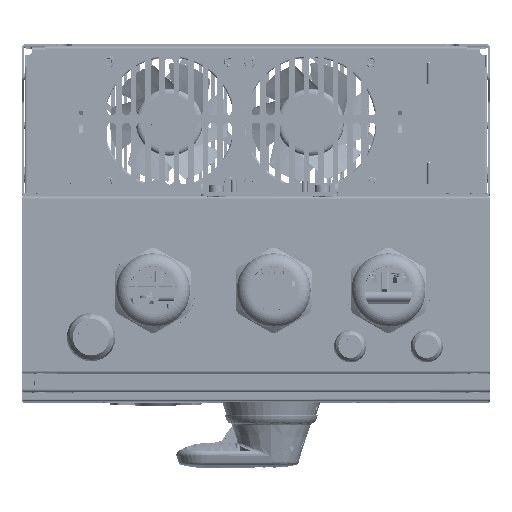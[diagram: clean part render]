
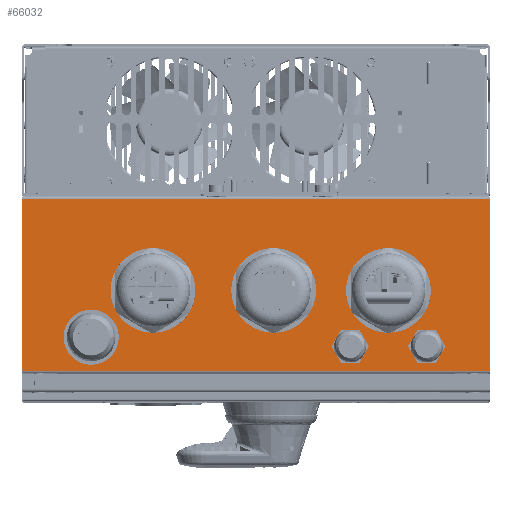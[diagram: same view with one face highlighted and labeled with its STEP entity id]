
A CAD part, top view. The second image highlights one B-rep face of the part: STEP entity #66032.
In plain terms, the highlighted planar face has unit normal (0, 0, 1) as drawn and (-1, 0, 0) by its records, which use the part's own axes.
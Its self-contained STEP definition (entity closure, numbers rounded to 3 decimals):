
#61065=DIRECTION('',(0.,0.,1.));
#61066=VECTOR('',#61065,318.);
#61067=CARTESIAN_POINT('',(-382.3,1.7,-159.));
#61068=LINE('',#61067,#61066);
#61516=DIRECTION('',(0.,0.,1.));
#61517=VECTOR('',#61516,318.);
#61518=CARTESIAN_POINT('',(-382.3,118.7,-159.));
#61519=LINE('',#61518,#61517);
#61525=DIRECTION('',(0.,1.,0.));
#61526=VECTOR('',#61525,117.);
#61527=CARTESIAN_POINT('',(-382.3,1.7,-159.));
#61528=LINE('',#61527,#61526);
#61529=DIRECTION('',(0.,-1.,0.));
#61530=VECTOR('',#61529,117.);
#61531=CARTESIAN_POINT('',(-382.3,118.7,159.));
#61532=LINE('',#61531,#61530);
#61533=CARTESIAN_POINT('',(-382.3,63.982,70.));
#61534=DIRECTION('',(-1.,0.,0.));
#61535=DIRECTION('',(0.,0.,-1.));
#61536=AXIS2_PLACEMENT_3D('',#61533,#61534,#61535);
#61538=CARTESIAN_POINT('',(-382.3,63.982,70.));
#61539=DIRECTION('',(-1.,0.,0.));
#61540=DIRECTION('',(0.,0.,1.));
#61541=AXIS2_PLACEMENT_3D('',#61538,#61539,#61540);
#61543=CARTESIAN_POINT('',(-382.3,102.,-116.));
#61544=DIRECTION('',(-1.,0.,0.));
#61545=DIRECTION('',(0.,0.,-1.));
#61546=AXIS2_PLACEMENT_3D('',#61543,#61544,#61545);
#61548=CARTESIAN_POINT('',(-382.3,102.,-116.));
#61549=DIRECTION('',(-1.,0.,0.));
#61550=DIRECTION('',(0.,0.,1.));
#61551=AXIS2_PLACEMENT_3D('',#61548,#61549,#61550);
#61553=CARTESIAN_POINT('',(-382.3,64.,-12.));
#61554=DIRECTION('',(-1.,0.,0.));
#61555=DIRECTION('',(0.,0.,-1.));
#61556=AXIS2_PLACEMENT_3D('',#61553,#61554,#61555);
#61558=CARTESIAN_POINT('',(-382.3,64.,-12.));
#61559=DIRECTION('',(-1.,0.,0.));
#61560=DIRECTION('',(0.,0.,1.));
#61561=AXIS2_PLACEMENT_3D('',#61558,#61559,#61560);
#61563=CARTESIAN_POINT('',(-382.3,64.,-90.));
#61564=DIRECTION('',(-1.,0.,0.));
#61565=DIRECTION('',(0.,0.,-1.));
#61566=AXIS2_PLACEMENT_3D('',#61563,#61564,#61565);
#61568=CARTESIAN_POINT('',(-382.3,64.,-90.));
#61569=DIRECTION('',(-1.,0.,0.));
#61570=DIRECTION('',(0.,0.,1.));
#61571=AXIS2_PLACEMENT_3D('',#61568,#61569,#61570);
#61573=CARTESIAN_POINT('',(-382.3,102.,-64.));
#61574=DIRECTION('',(-1.,0.,0.));
#61575=DIRECTION('',(0.,0.,-1.));
#61576=AXIS2_PLACEMENT_3D('',#61573,#61574,#61575);
#61578=CARTESIAN_POINT('',(-382.3,102.,-64.));
#61579=DIRECTION('',(-1.,0.,0.));
#61580=DIRECTION('',(0.,0.,1.));
#61581=AXIS2_PLACEMENT_3D('',#61578,#61579,#61580);
#61583=CARTESIAN_POINT('',(-382.3,95.8,112.));
#61584=DIRECTION('',(-1.,0.,0.));
#61585=DIRECTION('',(0.,0.,-1.));
#61586=AXIS2_PLACEMENT_3D('',#61583,#61584,#61585);
#61588=CARTESIAN_POINT('',(-382.3,95.8,112.));
#61589=DIRECTION('',(-1.,0.,0.));
#61590=DIRECTION('',(0.,0.,1.));
#61591=AXIS2_PLACEMENT_3D('',#61588,#61589,#61590);
#63449=CARTESIAN_POINT('',(-382.3,118.7,159.));
#63450=VERTEX_POINT('',#63449);
#63451=CARTESIAN_POINT('',(-382.3,118.7,-159.));
#63452=VERTEX_POINT('',#63451);
#63513=CARTESIAN_POINT('',(-382.3,1.7,159.));
#63515=VERTEX_POINT('',#63513);
#63521=CARTESIAN_POINT('',(-382.3,1.7,-159.));
#63523=VERTEX_POINT('',#63521);
#63837=CARTESIAN_POINT('',(-382.3,63.982,49.75));
#63838=CARTESIAN_POINT('',(-382.3,63.982,90.25));
#63839=VERTEX_POINT('',#63837);
#63840=VERTEX_POINT('',#63838);
#63841=CARTESIAN_POINT('',(-382.3,102.,-124.25));
#63842=CARTESIAN_POINT('',(-382.3,102.,-107.75));
#63843=VERTEX_POINT('',#63841);
#63844=VERTEX_POINT('',#63842);
#63845=CARTESIAN_POINT('',(-382.3,64.,-32.25));
#63846=CARTESIAN_POINT('',(-382.3,64.,8.25));
#63847=VERTEX_POINT('',#63845);
#63848=VERTEX_POINT('',#63846);
#63849=CARTESIAN_POINT('',(-382.3,64.,-110.25));
#63850=CARTESIAN_POINT('',(-382.3,64.,-69.75));
#63851=VERTEX_POINT('',#63849);
#63852=VERTEX_POINT('',#63850);
#63853=CARTESIAN_POINT('',(-382.3,102.,-72.25));
#63854=CARTESIAN_POINT('',(-382.3,102.,-55.75));
#63855=VERTEX_POINT('',#63853);
#63856=VERTEX_POINT('',#63854);
#64145=CARTESIAN_POINT('',(-382.3,95.8,99.25));
#64146=CARTESIAN_POINT('',(-382.3,95.8,124.75));
#64147=VERTEX_POINT('',#64145);
#64148=VERTEX_POINT('',#64146);
#65983=CARTESIAN_POINT('',(-382.3,0.,157.8));
#65984=DIRECTION('',(-1.,0.,0.));
#65985=DIRECTION('',(0.,0.,1.));
#65986=AXIS2_PLACEMENT_3D('',#65983,#65984,#65985);
#65987=PLANE('',#65986);
#65988=ORIENTED_EDGE('',*,*,#65352,.F.);
#65990=ORIENTED_EDGE('',*,*,#65989,.T.);
#65991=ORIENTED_EDGE('',*,*,#65976,.T.);
#65993=ORIENTED_EDGE('',*,*,#65992,.T.);
#65994=EDGE_LOOP('',(#65988,#65990,#65991,#65993));
#65995=FACE_OUTER_BOUND('',#65994,.F.);
#65997=ORIENTED_EDGE('',*,*,#65996,.T.);
#65999=ORIENTED_EDGE('',*,*,#65998,.T.);
#66000=EDGE_LOOP('',(#65997,#65999));
#66001=FACE_BOUND('',#66000,.F.);
#66003=ORIENTED_EDGE('',*,*,#66002,.T.);
#66005=ORIENTED_EDGE('',*,*,#66004,.T.);
#66006=EDGE_LOOP('',(#66003,#66005));
#66007=FACE_BOUND('',#66006,.F.);
#66009=ORIENTED_EDGE('',*,*,#66008,.T.);
#66011=ORIENTED_EDGE('',*,*,#66010,.T.);
#66012=EDGE_LOOP('',(#66009,#66011));
#66013=FACE_BOUND('',#66012,.F.);
#66015=ORIENTED_EDGE('',*,*,#66014,.T.);
#66017=ORIENTED_EDGE('',*,*,#66016,.T.);
#66018=EDGE_LOOP('',(#66015,#66017));
#66019=FACE_BOUND('',#66018,.F.);
#66021=ORIENTED_EDGE('',*,*,#66020,.T.);
#66023=ORIENTED_EDGE('',*,*,#66022,.T.);
#66024=EDGE_LOOP('',(#66021,#66023));
#66025=FACE_BOUND('',#66024,.F.);
#66027=ORIENTED_EDGE('',*,*,#66026,.T.);
#66029=ORIENTED_EDGE('',*,*,#66028,.T.);
#66030=EDGE_LOOP('',(#66027,#66029));
#66031=FACE_BOUND('',#66030,.F.);
#66032=ADVANCED_FACE('',(#65995,#66001,#66007,#66013,#66019,#66025,#66031),
#65987,.T.);
#61537=CIRCLE('',#61536,20.25);
#61542=CIRCLE('',#61541,20.25);
#61547=CIRCLE('',#61546,8.25);
#61552=CIRCLE('',#61551,8.25);
#61557=CIRCLE('',#61556,20.25);
#61562=CIRCLE('',#61561,20.25);
#61567=CIRCLE('',#61566,20.25);
#61572=CIRCLE('',#61571,20.25);
#61577=CIRCLE('',#61576,8.25);
#61582=CIRCLE('',#61581,8.25);
#61587=CIRCLE('',#61586,12.75);
#61592=CIRCLE('',#61591,12.75);
#65352=EDGE_CURVE('',#63523,#63515,#61068,.T.);
#65976=EDGE_CURVE('',#63452,#63450,#61519,.T.);
#65989=EDGE_CURVE('',#63523,#63452,#61528,.T.);
#65992=EDGE_CURVE('',#63450,#63515,#61532,.T.);
#65996=EDGE_CURVE('',#63839,#63840,#61537,.T.);
#65998=EDGE_CURVE('',#63840,#63839,#61542,.T.);
#66002=EDGE_CURVE('',#63843,#63844,#61547,.T.);
#66004=EDGE_CURVE('',#63844,#63843,#61552,.T.);
#66008=EDGE_CURVE('',#63847,#63848,#61557,.T.);
#66010=EDGE_CURVE('',#63848,#63847,#61562,.T.);
#66014=EDGE_CURVE('',#63851,#63852,#61567,.T.);
#66016=EDGE_CURVE('',#63852,#63851,#61572,.T.);
#66020=EDGE_CURVE('',#63855,#63856,#61577,.T.);
#66022=EDGE_CURVE('',#63856,#63855,#61582,.T.);
#66026=EDGE_CURVE('',#64147,#64148,#61587,.T.);
#66028=EDGE_CURVE('',#64148,#64147,#61592,.T.);
